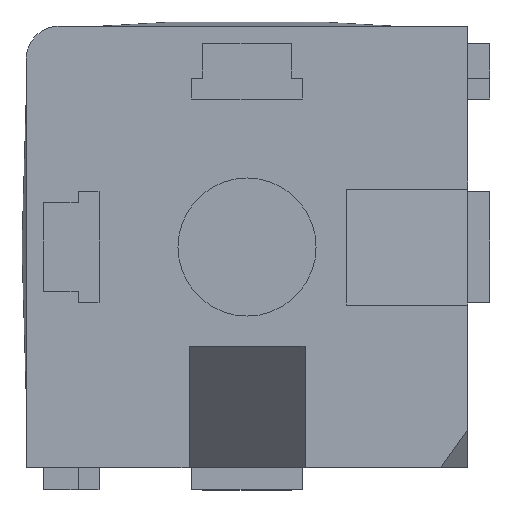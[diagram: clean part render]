
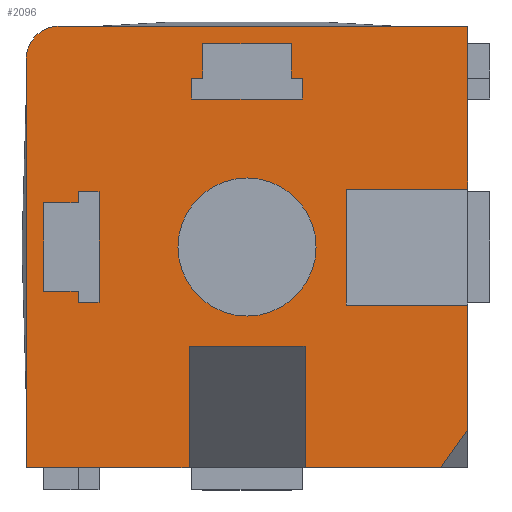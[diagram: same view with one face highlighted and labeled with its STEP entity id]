
A CAD part, left-side view. The second image highlights one B-rep face of the part: STEP entity #2096.
In plain terms, the highlighted planar face has unit normal (-1, 0, 0) as drawn and (0, 0, -1) by its records, which use the part's own axes.
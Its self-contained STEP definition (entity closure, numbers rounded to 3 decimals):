
#40=FACE_BOUND('',#333,.T.);
#41=FACE_BOUND('',#334,.T.);
#42=FACE_BOUND('',#335,.T.);
#54=PLANE('',#2274);
#212=FACE_OUTER_BOUND('',#332,.T.);
#332=EDGE_LOOP('',(#1560,#1561,#1562,#1563,#1564,#1565,#1566,#1567,#1568,
#1569,#1570,#1571,#1572,#1573));
#333=EDGE_LOOP('',(#1574));
#334=EDGE_LOOP('',(#1575,#1576,#1577,#1578,#1579,#1580,#1581,#1582));
#335=EDGE_LOOP('',(#1583,#1584,#1585,#1586,#1587,#1588,#1589,#1590));
#459=LINE('',#3212,#663);
#463=LINE('',#3220,#667);
#487=LINE('',#3273,#691);
#488=LINE('',#3275,#692);
#489=LINE('',#3277,#693);
#490=LINE('',#3279,#694);
#491=LINE('',#3281,#695);
#492=LINE('',#3283,#696);
#493=LINE('',#3284,#697);
#494=LINE('',#3286,#698);
#495=LINE('',#3288,#699);
#496=LINE('',#3289,#700);
#497=LINE('',#3290,#701);
#498=LINE('',#3293,#702);
#499=LINE('',#3295,#703);
#500=LINE('',#3297,#704);
#501=LINE('',#3299,#705);
#502=LINE('',#3301,#706);
#503=LINE('',#3303,#707);
#504=LINE('',#3305,#708);
#505=LINE('',#3306,#709);
#506=LINE('',#3309,#710);
#507=LINE('',#3311,#711);
#508=LINE('',#3313,#712);
#509=LINE('',#3315,#713);
#510=LINE('',#3317,#714);
#511=LINE('',#3319,#715);
#512=LINE('',#3321,#716);
#513=LINE('',#3322,#717);
#663=VECTOR('',#2532,1000.);
#667=VECTOR('',#2536,1000.);
#691=VECTOR('',#2566,1000.);
#692=VECTOR('',#2567,1000.);
#693=VECTOR('',#2568,1000.);
#694=VECTOR('',#2569,1000.);
#695=VECTOR('',#2570,1000.);
#696=VECTOR('',#2571,1000.);
#697=VECTOR('',#2572,1000.);
#698=VECTOR('',#2573,1000.);
#699=VECTOR('',#2574,1000.);
#700=VECTOR('',#2575,1000.);
#701=VECTOR('',#2576,1000.);
#702=VECTOR('',#2577,1000.);
#703=VECTOR('',#2578,1000.);
#704=VECTOR('',#2579,1000.);
#705=VECTOR('',#2580,1000.);
#706=VECTOR('',#2581,1000.);
#707=VECTOR('',#2582,1000.);
#708=VECTOR('',#2583,1000.);
#709=VECTOR('',#2584,1000.);
#710=VECTOR('',#2585,1000.);
#711=VECTOR('',#2586,1000.);
#712=VECTOR('',#2587,1000.);
#713=VECTOR('',#2588,1000.);
#714=VECTOR('',#2589,1000.);
#715=VECTOR('',#2590,1000.);
#716=VECTOR('',#2591,1000.);
#717=VECTOR('',#2592,1000.);
#855=CIRCLE('',#2226,6.25);
#879=CIRCLE('',#2275,3.);
#917=VERTEX_POINT('',#3016);
#951=VERTEX_POINT('',#3209);
#952=VERTEX_POINT('',#3211);
#955=VERTEX_POINT('',#3217);
#956=VERTEX_POINT('',#3219);
#980=VERTEX_POINT('',#3269);
#981=VERTEX_POINT('',#3270);
#982=VERTEX_POINT('',#3272);
#983=VERTEX_POINT('',#3274);
#984=VERTEX_POINT('',#3276);
#985=VERTEX_POINT('',#3278);
#986=VERTEX_POINT('',#3280);
#987=VERTEX_POINT('',#3282);
#988=VERTEX_POINT('',#3285);
#989=VERTEX_POINT('',#3287);
#990=VERTEX_POINT('',#3291);
#991=VERTEX_POINT('',#3292);
#992=VERTEX_POINT('',#3294);
#993=VERTEX_POINT('',#3296);
#994=VERTEX_POINT('',#3298);
#995=VERTEX_POINT('',#3300);
#996=VERTEX_POINT('',#3302);
#997=VERTEX_POINT('',#3304);
#998=VERTEX_POINT('',#3307);
#999=VERTEX_POINT('',#3308);
#1000=VERTEX_POINT('',#3310);
#1001=VERTEX_POINT('',#3312);
#1002=VERTEX_POINT('',#3314);
#1003=VERTEX_POINT('',#3316);
#1004=VERTEX_POINT('',#3318);
#1005=VERTEX_POINT('',#3320);
#1124=EDGE_CURVE('',#917,#917,#855,.T.);
#1176=EDGE_CURVE('',#951,#952,#459,.T.);
#1180=EDGE_CURVE('',#955,#956,#463,.T.);
#1205=EDGE_CURVE('',#980,#981,#879,.T.);
#1206=EDGE_CURVE('',#981,#982,#487,.T.);
#1207=EDGE_CURVE('',#983,#982,#488,.T.);
#1208=EDGE_CURVE('',#983,#984,#489,.T.);
#1209=EDGE_CURVE('',#984,#985,#490,.T.);
#1210=EDGE_CURVE('',#986,#985,#491,.T.);
#1211=EDGE_CURVE('',#987,#986,#492,.T.);
#1212=EDGE_CURVE('',#987,#956,#493,.T.);
#1213=EDGE_CURVE('',#955,#988,#494,.T.);
#1214=EDGE_CURVE('',#988,#989,#495,.T.);
#1215=EDGE_CURVE('',#952,#989,#496,.T.);
#1216=EDGE_CURVE('',#951,#980,#497,.T.);
#1217=EDGE_CURVE('',#990,#991,#498,.T.);
#1218=EDGE_CURVE('',#992,#990,#499,.T.);
#1219=EDGE_CURVE('',#993,#992,#500,.T.);
#1220=EDGE_CURVE('',#994,#993,#501,.T.);
#1221=EDGE_CURVE('',#995,#994,#502,.T.);
#1222=EDGE_CURVE('',#996,#995,#503,.T.);
#1223=EDGE_CURVE('',#997,#996,#504,.T.);
#1224=EDGE_CURVE('',#991,#997,#505,.T.);
#1225=EDGE_CURVE('',#998,#999,#506,.T.);
#1226=EDGE_CURVE('',#1000,#998,#507,.T.);
#1227=EDGE_CURVE('',#1001,#1000,#508,.T.);
#1228=EDGE_CURVE('',#1002,#1001,#509,.T.);
#1229=EDGE_CURVE('',#1003,#1002,#510,.T.);
#1230=EDGE_CURVE('',#1004,#1003,#511,.T.);
#1231=EDGE_CURVE('',#1005,#1004,#512,.T.);
#1232=EDGE_CURVE('',#999,#1005,#513,.T.);
#1560=ORIENTED_EDGE('',*,*,#1205,.T.);
#1561=ORIENTED_EDGE('',*,*,#1206,.T.);
#1562=ORIENTED_EDGE('',*,*,#1207,.F.);
#1563=ORIENTED_EDGE('',*,*,#1208,.T.);
#1564=ORIENTED_EDGE('',*,*,#1209,.T.);
#1565=ORIENTED_EDGE('',*,*,#1210,.F.);
#1566=ORIENTED_EDGE('',*,*,#1211,.F.);
#1567=ORIENTED_EDGE('',*,*,#1212,.T.);
#1568=ORIENTED_EDGE('',*,*,#1180,.F.);
#1569=ORIENTED_EDGE('',*,*,#1213,.T.);
#1570=ORIENTED_EDGE('',*,*,#1214,.T.);
#1571=ORIENTED_EDGE('',*,*,#1215,.F.);
#1572=ORIENTED_EDGE('',*,*,#1176,.F.);
#1573=ORIENTED_EDGE('',*,*,#1216,.T.);
#1574=ORIENTED_EDGE('',*,*,#1124,.F.);
#1575=ORIENTED_EDGE('',*,*,#1217,.F.);
#1576=ORIENTED_EDGE('',*,*,#1218,.F.);
#1577=ORIENTED_EDGE('',*,*,#1219,.F.);
#1578=ORIENTED_EDGE('',*,*,#1220,.F.);
#1579=ORIENTED_EDGE('',*,*,#1221,.F.);
#1580=ORIENTED_EDGE('',*,*,#1222,.F.);
#1581=ORIENTED_EDGE('',*,*,#1223,.F.);
#1582=ORIENTED_EDGE('',*,*,#1224,.F.);
#1583=ORIENTED_EDGE('',*,*,#1225,.F.);
#1584=ORIENTED_EDGE('',*,*,#1226,.F.);
#1585=ORIENTED_EDGE('',*,*,#1227,.F.);
#1586=ORIENTED_EDGE('',*,*,#1228,.F.);
#1587=ORIENTED_EDGE('',*,*,#1229,.F.);
#1588=ORIENTED_EDGE('',*,*,#1230,.F.);
#1589=ORIENTED_EDGE('',*,*,#1231,.F.);
#1590=ORIENTED_EDGE('',*,*,#1232,.F.);
#2096=ADVANCED_FACE('',(#212,#40,#41,#42),#54,.T.);
#2226=AXIS2_PLACEMENT_3D('',#3018,#2426,#2427);
#2274=AXIS2_PLACEMENT_3D('',#3268,#2562,#2563);
#2275=AXIS2_PLACEMENT_3D('',#3271,#2564,#2565);
#2426=DIRECTION('center_axis',(0.,0.,-1.));
#2427=DIRECTION('ref_axis',(-1.,0.,0.));
#2532=DIRECTION('',(1.,0.,0.));
#2536=DIRECTION('',(1.,0.,0.));
#2562=DIRECTION('center_axis',(0.,0.,-1.));
#2563=DIRECTION('ref_axis',(-1.,0.,0.));
#2564=DIRECTION('center_axis',(0.,0.,-1.));
#2565=DIRECTION('ref_axis',(1.,0.,0.));
#2566=DIRECTION('',(1.,0.,0.));
#2567=DIRECTION('',(0.,1.,0.));
#2568=DIRECTION('',(-1.,0.,0.));
#2569=DIRECTION('',(0.,-1.,0.));
#2570=DIRECTION('',(-1.,0.,0.));
#2571=DIRECTION('',(0.,1.,0.));
#2572=DIRECTION('',(-0.816,-0.577,0.));
#2573=DIRECTION('',(0.,1.,0.));
#2574=DIRECTION('',(-1.,0.,0.));
#2575=DIRECTION('',(0.,1.,0.));
#2576=DIRECTION('',(0.,1.,0.));
#2577=DIRECTION('',(1.,0.,0.));
#2578=DIRECTION('',(0.,1.,0.));
#2579=DIRECTION('',(1.,0.,0.));
#2580=DIRECTION('',(0.,1.,0.));
#2581=DIRECTION('',(-1.,0.,0.));
#2582=DIRECTION('',(0.,-1.,0.));
#2583=DIRECTION('',(1.,0.,0.));
#2584=DIRECTION('',(0.,-1.,0.));
#2585=DIRECTION('',(0.,1.,0.));
#2586=DIRECTION('',(-1.,0.,0.));
#2587=DIRECTION('',(0.,1.,0.));
#2588=DIRECTION('',(-1.,0.,0.));
#2589=DIRECTION('',(0.,-1.,0.));
#2590=DIRECTION('',(1.,0.,0.));
#2591=DIRECTION('',(0.,1.,0.));
#2592=DIRECTION('',(1.,0.,0.));
#3016=CARTESIAN_POINT('',(-26.25,0.,-20.));
#3018=CARTESIAN_POINT('Origin',(-20.,0.,-20.));
#3209=CARTESIAN_POINT('',(-40.,-20.,-20.));
#3211=CARTESIAN_POINT('',(-25.25,-20.,-20.));
#3212=CARTESIAN_POINT('',(-25.25,-20.,-20.));
#3217=CARTESIAN_POINT('',(-14.75,-20.,-20.));
#3219=CARTESIAN_POINT('',(-3.5,-20.,-20.));
#3220=CARTESIAN_POINT('',(-3.5,-20.,-20.));
#3268=CARTESIAN_POINT('Origin',(0.,-20.,-20.));
#3269=CARTESIAN_POINT('',(-40.,17.,-20.));
#3270=CARTESIAN_POINT('',(-37.,20.,-20.));
#3271=CARTESIAN_POINT('Origin',(-37.,17.,-20.));
#3272=CARTESIAN_POINT('',(0.,20.,-20.));
#3273=CARTESIAN_POINT('',(-44.243,20.,-20.));
#3274=CARTESIAN_POINT('',(0.,5.25,-20.));
#3275=CARTESIAN_POINT('',(0.,17.,-20.));
#3276=CARTESIAN_POINT('',(-11.,5.25,-20.));
#3277=CARTESIAN_POINT('',(0.,5.25,-20.));
#3278=CARTESIAN_POINT('',(-11.,-5.25,-20.));
#3279=CARTESIAN_POINT('',(-11.,5.25,-20.));
#3280=CARTESIAN_POINT('',(0.,-5.25,-20.));
#3281=CARTESIAN_POINT('',(-11.,-5.25,-20.));
#3282=CARTESIAN_POINT('',(0.,-17.525,-20.));
#3283=CARTESIAN_POINT('',(0.,-5.25,-20.));
#3284=CARTESIAN_POINT('',(0.,-17.525,-20.));
#3285=CARTESIAN_POINT('',(-14.75,-9.,-20.));
#3286=CARTESIAN_POINT('',(-14.75,-20.,-20.));
#3287=CARTESIAN_POINT('',(-25.25,-9.,-20.));
#3288=CARTESIAN_POINT('',(-14.75,-9.,-20.));
#3289=CARTESIAN_POINT('',(-25.25,-9.,-20.));
#3290=CARTESIAN_POINT('',(-40.,20.,-20.));
#3291=CARTESIAN_POINT('',(-24.,18.4,-20.));
#3292=CARTESIAN_POINT('',(-16.,18.4,-20.));
#3293=CARTESIAN_POINT('',(-16.,18.4,-20.));
#3294=CARTESIAN_POINT('',(-24.,15.3,-20.));
#3295=CARTESIAN_POINT('',(-24.,18.4,-20.));
#3296=CARTESIAN_POINT('',(-25.,15.3,-20.));
#3297=CARTESIAN_POINT('',(-24.,15.3,-20.));
#3298=CARTESIAN_POINT('',(-25.,13.4,-20.));
#3299=CARTESIAN_POINT('',(-25.,15.3,-20.));
#3300=CARTESIAN_POINT('',(-15.,13.4,-20.));
#3301=CARTESIAN_POINT('',(-25.,13.4,-20.));
#3302=CARTESIAN_POINT('',(-15.,15.3,-20.));
#3303=CARTESIAN_POINT('',(-15.,15.3,-20.));
#3304=CARTESIAN_POINT('',(-16.,15.3,-20.));
#3305=CARTESIAN_POINT('',(-16.,15.3,-20.));
#3306=CARTESIAN_POINT('',(-16.,18.4,-20.));
#3307=CARTESIAN_POINT('',(-38.4,-4.,-20.));
#3308=CARTESIAN_POINT('',(-38.4,4.,-20.));
#3309=CARTESIAN_POINT('',(-38.4,4.,-20.));
#3310=CARTESIAN_POINT('',(-35.3,-4.,-20.));
#3311=CARTESIAN_POINT('',(-38.4,-4.,-20.));
#3312=CARTESIAN_POINT('',(-35.3,-5.,-20.));
#3313=CARTESIAN_POINT('',(-35.3,-4.,-20.));
#3314=CARTESIAN_POINT('',(-33.4,-5.,-20.));
#3315=CARTESIAN_POINT('',(-35.3,-5.,-20.));
#3316=CARTESIAN_POINT('',(-33.4,5.,-20.));
#3317=CARTESIAN_POINT('',(-33.4,-5.,-20.));
#3318=CARTESIAN_POINT('',(-35.3,5.,-20.));
#3319=CARTESIAN_POINT('',(-35.3,5.,-20.));
#3320=CARTESIAN_POINT('',(-35.3,4.,-20.));
#3321=CARTESIAN_POINT('',(-35.3,4.,-20.));
#3322=CARTESIAN_POINT('',(-38.4,4.,-20.));
